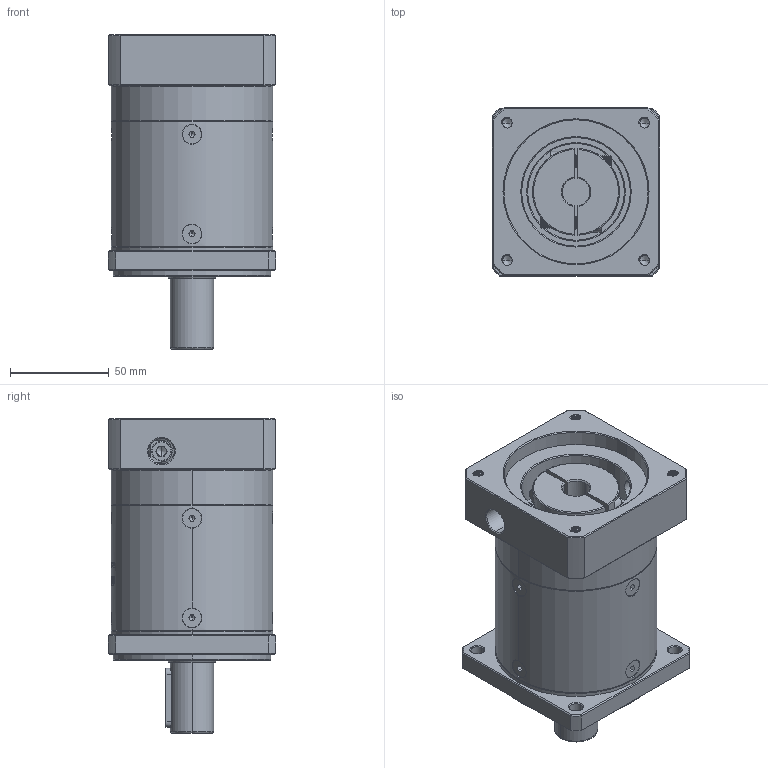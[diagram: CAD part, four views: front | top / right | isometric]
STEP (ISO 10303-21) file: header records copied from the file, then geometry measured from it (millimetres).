
FILE_DESCRIPTION (( 'STEP AP214' ), '1' );
FILE_NAME ('ZF80-D22-L2-14-73-69.5X69.5-M6.step', '2022-05-08T09:17:55', ( '' ), ( 'Microsoft' ), 'SwSTEP 2.0', 'SolidWorks 2016', '' );
FILE_SCHEMA (( 'AUTOMOTIVE_DESIGN' ));
Length unit declared in the file: millimetre
Products named in the file (1): ZF80-D22-L2-14-73-69.5X69.5-M6
Bounding box: 85 x 85 x 159.5 mm (x, y, z)
Volume: 648550.1 mm3; surface area: 94237.7 mm2
Topology: 13 solids, 13 shells, 1979 faces, 5123 edges, 3238 vertices
Faces by surface type: plane 896, cylinder 408, cone 338, bspline 320, torus 17
Entity records: 107797 total; most frequent: CARTESIAN_POINT 41338, ORIENTED_EDGE 10186, DIRECTION 8030, EDGE_CURVE 5093, VERTEX_POINT 3238, VECTOR 2760, LINE 2760, AXIS2_PLACEMENT_3D 2635
